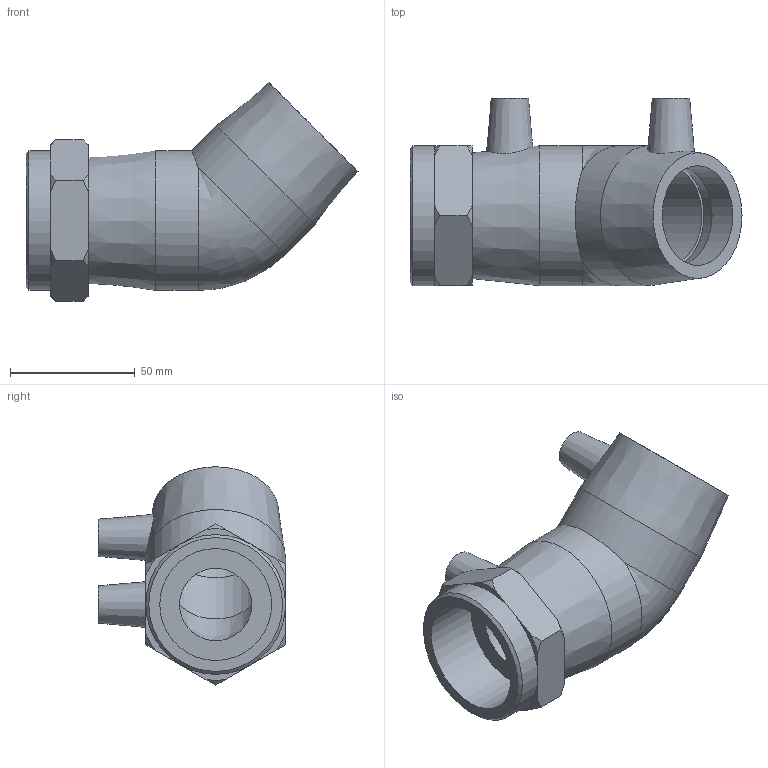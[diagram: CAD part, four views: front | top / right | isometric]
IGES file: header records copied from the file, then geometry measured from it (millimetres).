
Global section: file name: 493604040015.ipt; native system: Autodesk Inventor 2015; preprocessor: unknown; author: KIM; date: 20200202.122459; units: millimetre
Bounding box: 133 x 75 x 87.5 mm (x, y, z)
Volume: 180057.5 mm3; surface area: 47847.8 mm2
Topology: 1 solids, 2 shells, 61 faces, 150 edges, 100 vertices
Faces by surface type: plane 27, cone 17, revolution 9, cylinder 7, bspline 1
Full cylindrical faces by diameter (mm): 4 x2, 40 x2, 56 x3
